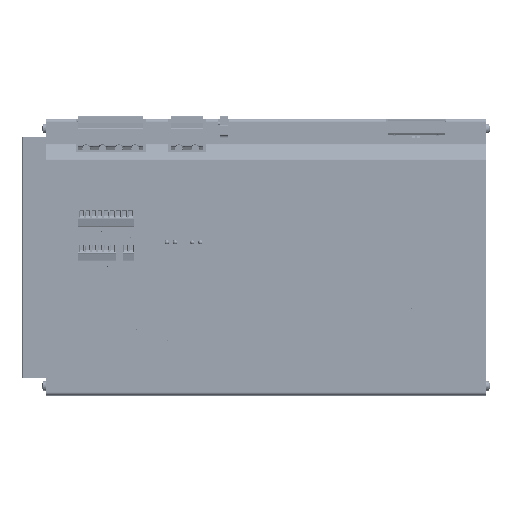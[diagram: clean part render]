
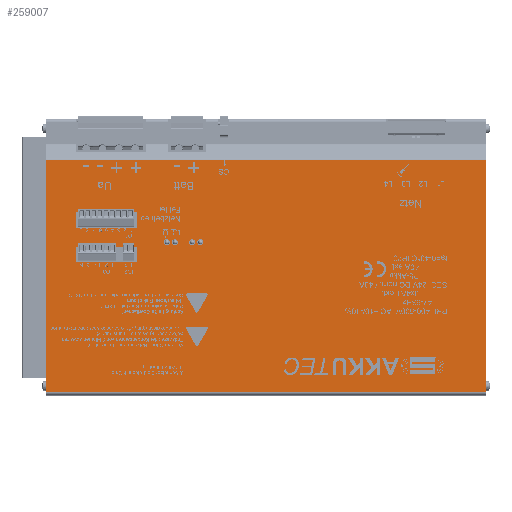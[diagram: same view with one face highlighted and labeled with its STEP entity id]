
A CAD part, front view. The second image highlights one B-rep face of the part: STEP entity #259007.
In plain terms, the highlighted planar face has unit normal (0, -1, 0) as drawn and (1, 0, 0) by its records, which use the part's own axes.
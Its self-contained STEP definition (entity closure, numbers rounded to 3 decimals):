
#25403=PLANE('',#273853);
#38561=LINE('',#350473,#65718);
#38564=LINE('',#350479,#65721);
#38567=LINE('',#350485,#65724);
#38570=LINE('',#350489,#65727);
#38573=LINE('',#350497,#65730);
#38576=LINE('',#350503,#65733);
#38579=LINE('',#350509,#65736);
#38582=LINE('',#350513,#65739);
#39829=LINE('',#353069,#66986);
#39830=LINE('',#353071,#66987);
#39831=LINE('',#353073,#66988);
#39832=LINE('',#353074,#66989);
#65718=VECTOR('',#293172,9.6);
#65721=VECTOR('',#293177,38.);
#65724=VECTOR('',#293182,9.6);
#65727=VECTOR('',#293187,38.);
#65730=VECTOR('',#293192,9.6);
#65733=VECTOR('',#293197,38.);
#65736=VECTOR('',#293202,9.6);
#65739=VECTOR('',#293207,38.);
#66986=VECTOR('',#296920,274.5);
#66987=VECTOR('',#296921,144.624);
#66988=VECTOR('',#296922,274.5);
#66989=VECTOR('',#296923,144.624);
#88280=FACE_BOUND('',#107025,.T.);
#88281=FACE_BOUND('',#107026,.T.);
#88282=FACE_BOUND('',#107027,.T.);
#88283=FACE_BOUND('',#107028,.T.);
#88284=FACE_BOUND('',#107029,.T.);
#88285=FACE_BOUND('',#107030,.T.);
#91761=FACE_OUTER_BOUND('',#107024,.T.);
#107024=EDGE_LOOP('',(#197012,#197013,#197014,#197015));
#107025=EDGE_LOOP('',(#197016));
#107026=EDGE_LOOP('',(#197017));
#107027=EDGE_LOOP('',(#197018));
#107028=EDGE_LOOP('',(#197019));
#107029=EDGE_LOOP('',(#197020,#197021,#197022,#197023));
#107030=EDGE_LOOP('',(#197024,#197025,#197026,#197027));
#119842=CIRCLE('',#272603,1.9);
#119844=CIRCLE('',#272606,1.9);
#119846=CIRCLE('',#272609,1.9);
#119848=CIRCLE('',#272612,1.9);
#126657=VERTEX_POINT('',#350449);
#126659=VERTEX_POINT('',#350454);
#126661=VERTEX_POINT('',#350459);
#126663=VERTEX_POINT('',#350464);
#126666=VERTEX_POINT('',#350470);
#126667=VERTEX_POINT('',#350472);
#126669=VERTEX_POINT('',#350478);
#126671=VERTEX_POINT('',#350484);
#126674=VERTEX_POINT('',#350494);
#126675=VERTEX_POINT('',#350496);
#126677=VERTEX_POINT('',#350502);
#126679=VERTEX_POINT('',#350508);
#126754=VERTEX_POINT('',#353062);
#126755=VERTEX_POINT('',#353068);
#126756=VERTEX_POINT('',#353070);
#126757=VERTEX_POINT('',#353072);
#152053=EDGE_CURVE('',#126657,#126657,#119842,.T.);
#152055=EDGE_CURVE('',#126659,#126659,#119844,.T.);
#152057=EDGE_CURVE('',#126661,#126661,#119846,.T.);
#152059=EDGE_CURVE('',#126663,#126663,#119848,.T.);
#152062=EDGE_CURVE('',#126667,#126666,#38561,.T.);
#152065=EDGE_CURVE('',#126669,#126667,#38564,.T.);
#152068=EDGE_CURVE('',#126671,#126669,#38567,.T.);
#152071=EDGE_CURVE('',#126666,#126671,#38570,.T.);
#152074=EDGE_CURVE('',#126675,#126674,#38573,.T.);
#152077=EDGE_CURVE('',#126677,#126675,#38576,.T.);
#152080=EDGE_CURVE('',#126679,#126677,#38579,.T.);
#152083=EDGE_CURVE('',#126674,#126679,#38582,.T.);
#153365=EDGE_CURVE('',#126755,#126754,#39829,.T.);
#153366=EDGE_CURVE('',#126756,#126755,#39830,.T.);
#153367=EDGE_CURVE('',#126756,#126757,#39831,.T.);
#153368=EDGE_CURVE('',#126754,#126757,#39832,.T.);
#197012=ORIENTED_EDGE('',*,*,#153365,.F.);
#197013=ORIENTED_EDGE('',*,*,#153366,.F.);
#197014=ORIENTED_EDGE('',*,*,#153367,.T.);
#197015=ORIENTED_EDGE('',*,*,#153368,.F.);
#197016=ORIENTED_EDGE('',*,*,#152053,.T.);
#197017=ORIENTED_EDGE('',*,*,#152055,.T.);
#197018=ORIENTED_EDGE('',*,*,#152057,.T.);
#197019=ORIENTED_EDGE('',*,*,#152059,.T.);
#197020=ORIENTED_EDGE('',*,*,#152068,.T.);
#197021=ORIENTED_EDGE('',*,*,#152065,.T.);
#197022=ORIENTED_EDGE('',*,*,#152062,.T.);
#197023=ORIENTED_EDGE('',*,*,#152071,.T.);
#197024=ORIENTED_EDGE('',*,*,#152080,.T.);
#197025=ORIENTED_EDGE('',*,*,#152077,.T.);
#197026=ORIENTED_EDGE('',*,*,#152074,.T.);
#197027=ORIENTED_EDGE('',*,*,#152083,.T.);
#259007=ADVANCED_FACE('',(#91761,#88280,#88281,#88282,#88283,#88284,#88285),
#25403,.T.);
#272603=AXIS2_PLACEMENT_3D('',#350450,#293148,#293149);
#272606=AXIS2_PLACEMENT_3D('',#350455,#293154,#293155);
#272609=AXIS2_PLACEMENT_3D('',#350460,#293160,#293161);
#272612=AXIS2_PLACEMENT_3D('',#350465,#293166,#293167);
#273853=AXIS2_PLACEMENT_3D('',#353067,#296918,#296919);
#293148=DIRECTION('center_axis',(-1.,0.,0.));
#293149=DIRECTION('ref_axis',(0.,0.,
-1.));
#293154=DIRECTION('center_axis',(-1.,0.,0.));
#293155=DIRECTION('ref_axis',(0.,0.,
-1.));
#293160=DIRECTION('center_axis',(-1.,0.,0.));
#293161=DIRECTION('ref_axis',(0.,0.,
-1.));
#293166=DIRECTION('center_axis',(-1.,0.,0.));
#293167=DIRECTION('ref_axis',(0.,0.,
-1.));
#293172=DIRECTION('',(0.,1.,0.));
#293177=DIRECTION('',(0.,0.,1.));
#293182=DIRECTION('',(0.,-1.,0.));
#293187=DIRECTION('',(0.,0.,-1.));
#293192=DIRECTION('',(0.,1.,0.));
#293197=DIRECTION('',(0.,0.,1.));
#293202=DIRECTION('',(0.,-1.,0.));
#293207=DIRECTION('',(0.,0.,-1.));
#296918=DIRECTION('center_axis',(1.,0.,0.));
#296919=DIRECTION('ref_axis',(0.,0.,1.));
#296920=DIRECTION('',(0.,0.,1.));
#296921=DIRECTION('',(0.,-1.,0.));
#296922=DIRECTION('',(0.,0.,1.));
#296923=DIRECTION('',(0.,1.,0.));
#350449=CARTESIAN_POINT('',(64.35,-9.4,-58.75));
#350450=CARTESIAN_POINT('Origin',(64.35,-9.4,-56.85));
#350454=CARTESIAN_POINT('',(64.35,-9.4,-42.95));
#350455=CARTESIAN_POINT('Origin',(64.35,-9.4,-41.05));
#350459=CARTESIAN_POINT('',(64.35,-9.4,-48.05));
#350460=CARTESIAN_POINT('Origin',(64.35,-9.4,-46.15));
#350464=CARTESIAN_POINT('',(64.35,-9.4,-63.85));
#350465=CARTESIAN_POINT('Origin',(64.35,-9.4,-61.95));
#350470=CARTESIAN_POINT('',(64.35,-18.55,-80.75));
#350472=CARTESIAN_POINT('',(64.35,-28.15,-80.75));
#350473=CARTESIAN_POINT('',(64.35,-12.694,-80.75));
#350478=CARTESIAN_POINT('',(64.35,-28.15,-118.75));
#350479=CARTESIAN_POINT('',(64.35,-28.15,-59.375));
#350484=CARTESIAN_POINT('',(64.35,-18.55,-118.75));
#350485=CARTESIAN_POINT('',(64.35,-7.894,-118.75));
#350489=CARTESIAN_POINT('',(64.35,-18.55,-40.375));
#350494=CARTESIAN_POINT('',(64.35,3.05,-80.75));
#350496=CARTESIAN_POINT('',(64.35,-6.55,-80.75));
#350497=CARTESIAN_POINT('',(64.35,-1.894,-80.75));
#350502=CARTESIAN_POINT('',(64.35,-6.55,-118.75));
#350503=CARTESIAN_POINT('',(64.35,-6.55,-59.375));
#350508=CARTESIAN_POINT('',(64.35,3.05,-118.75));
#350509=CARTESIAN_POINT('',(64.35,2.906,-118.75));
#350513=CARTESIAN_POINT('',(64.35,3.05,-40.375));
#353062=CARTESIAN_POINT('',(64.35,-60.374,137.25));
#353067=CARTESIAN_POINT('Origin',(64.35,2.762,0.));
#353068=CARTESIAN_POINT('',(64.35,-60.374,-137.25));
#353069=CARTESIAN_POINT('',(64.35,-60.374,0.));
#353070=CARTESIAN_POINT('',(64.35,84.25,-137.25));
#353071=CARTESIAN_POINT('',(64.35,-90.037,-137.25));
#353072=CARTESIAN_POINT('',(64.35,84.25,137.25));
#353073=CARTESIAN_POINT('',(64.35,84.25,0.));
#353074=CARTESIAN_POINT('',(64.35,212.212,137.25));
